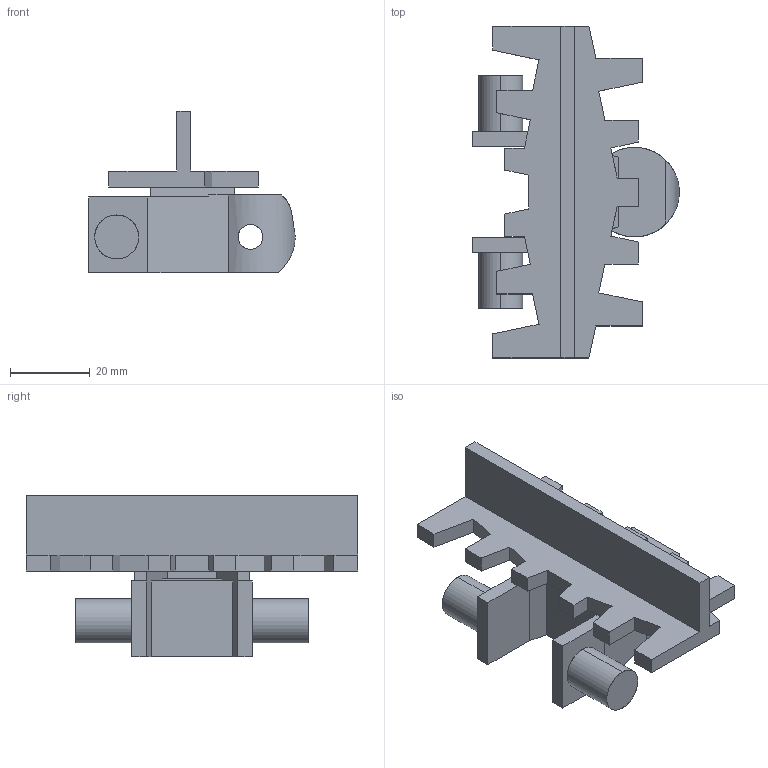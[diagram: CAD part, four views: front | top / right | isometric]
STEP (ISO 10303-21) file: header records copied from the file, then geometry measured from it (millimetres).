
FILE_DESCRIPTION (( 'STEP AP214' ), '1' );
FILE_NAME ('FMCT-5F-H15-P.STEP', '2011-09-28T08:32:36', ( '.' ), ( '' ), 'SwSTEP 2.0', 'SolidWorks 2010', '' );
FILE_SCHEMA (( 'AUTOMOTIVE_DESIGN' ));
Length unit declared in the file: millimetre
Products named in the file (1): FMCT-5F-H15-P
Bounding box: 51.65 x 83 x 40.5 mm (x, y, z)
Surface area: 14764.5 mm2 (no closed solid volume)
Topology: 0 solids, 89 shells, 92 faces, 507 edges, 501 vertices
Faces by surface type: plane 82, cylinder 10
Entity records: 6477 total; most frequent: CARTESIAN_POINT 2723, DIRECTION 670, ORIENTED_EDGE 513, EDGE_CURVE 507, VERTEX_POINT 501, VECTOR 460, LINE 460, AXIS2_PLACEMENT_3D 105
